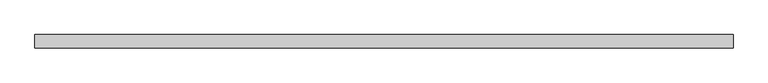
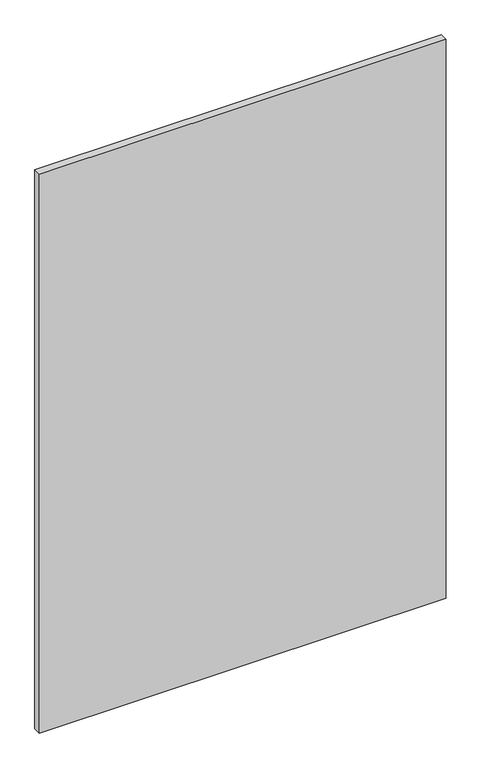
"""IFC4 building model written with IfcOpenShell, lengths in millimetres: plate geometry, Vitré."""

from ifc_helpers import new_model, si_unit, origin, origin_with_axes, place, context, project, spatial, polyline, outline, extrude, source, transform, mapped, element, save


def plate_e04d734f(model_context):
    return source(origin(), model_context, "Body", "SweptSolid", [
        extrude(outline(polyline([(-1049.4062498, -20.0), (-1049.4062498, 20.0), (1049.4062498, 20.0), (1049.4062498, -20.0), (-1049.4062498, -20.0)])), origin_with_axes(), (0.0, 0.0, 1.0), 3047.625),
    ])


if __name__ == "__main__":
    model = new_model("IFC4")
    model_context = context("Model", 3, world=origin())
    ifc_project = project(units=[si_unit("LENGTHUNIT", "METRE", prefix="MILLI")], contexts=[model_context])
    site = spatial("IfcSite", under=ifc_project)
    building = spatial("IfcBuilding", under=site)
    placement = place(None, origin())
    plate_shape = plate_e04d734f(model_context)
    element("IfcPlate", 1, ObjectType="Vitré", at=placement, inside=building, context=model_context, shape_type="MappedRepresentation", body=[
        mapped(plate_shape, transform((0.0, 0.0, 0.0), x_axis=(1.0, 0.0, 0.0), y_axis=(0.0, 1.0, 0.0), z_axis=(0.0, 0.0, 1.0))),
    ])
    save(model, "model.ifc")
